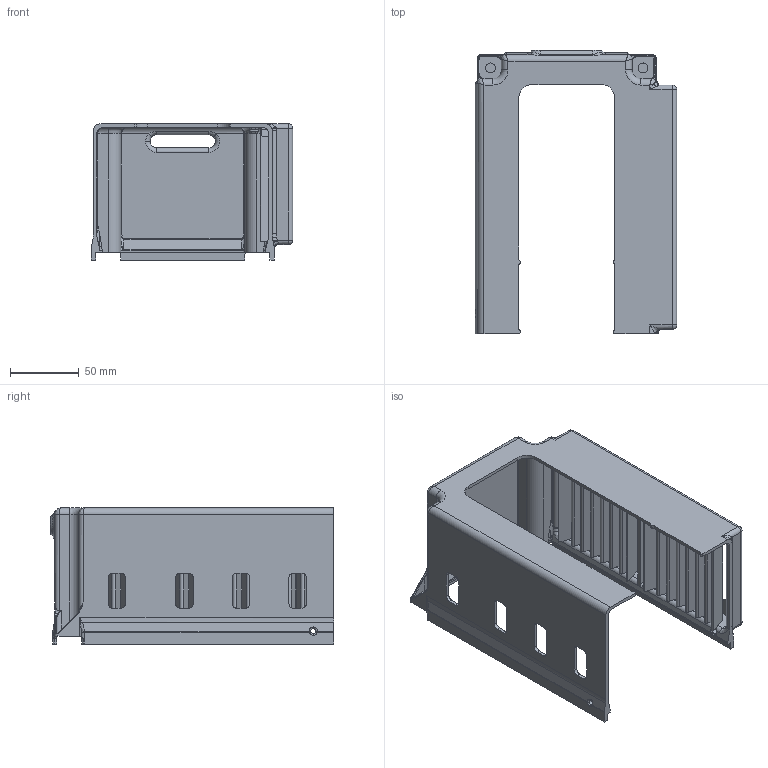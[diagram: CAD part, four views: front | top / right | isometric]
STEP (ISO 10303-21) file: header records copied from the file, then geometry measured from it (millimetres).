
FILE_DESCRIPTION (( 'STEP AP203' ), '1' );
FILE_NAME ('Demon Driver Cover 80mm fans r5.STEP', '2020-01-22T21:41:20', ( '' ), ( '' ), 'SwSTEP 2.0', 'SolidWorks 2017', '' );
FILE_SCHEMA (( 'CONFIG_CONTROL_DESIGN' ));
Length unit declared in the file: inch
Products named in the file (1): Demon Driver Cover 80mm fans r5
Bounding box: 146.76 x 206.38 x 99.22 mm (x, y, z)
Volume: 200043.6 mm3; surface area: 191808.3 mm2
Topology: 3 solids, 3 shells, 1076 faces, 2736 edges, 1615 vertices
Faces by surface type: plane 414, cylinder 379, bspline 105, cone 82, torus 79, sphere 17
Entity records: 34714 total; most frequent: CARTESIAN_POINT 9319, ORIENTED_EDGE 5376, DIRECTION 5327, EDGE_CURVE 2688, AXIS2_PLACEMENT_3D 1895, VERTEX_POINT 1615, VECTOR 1537, LINE 1537
